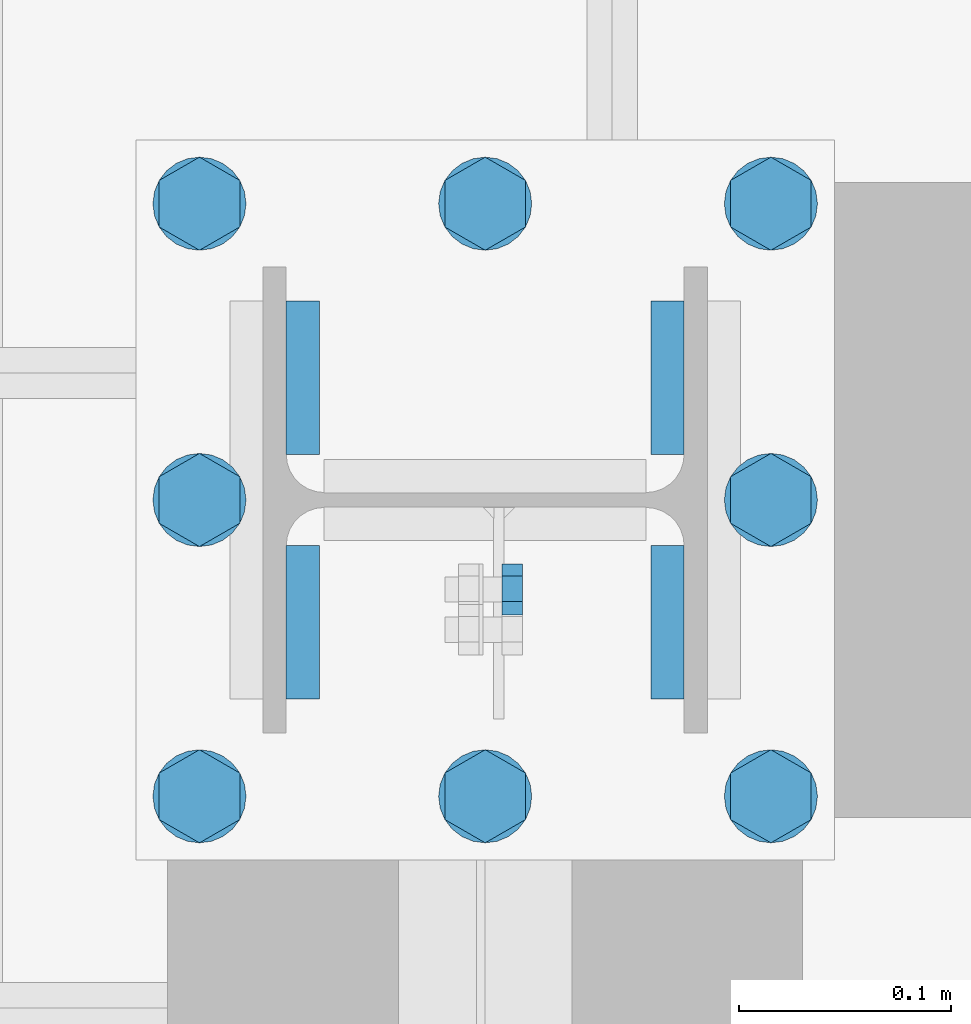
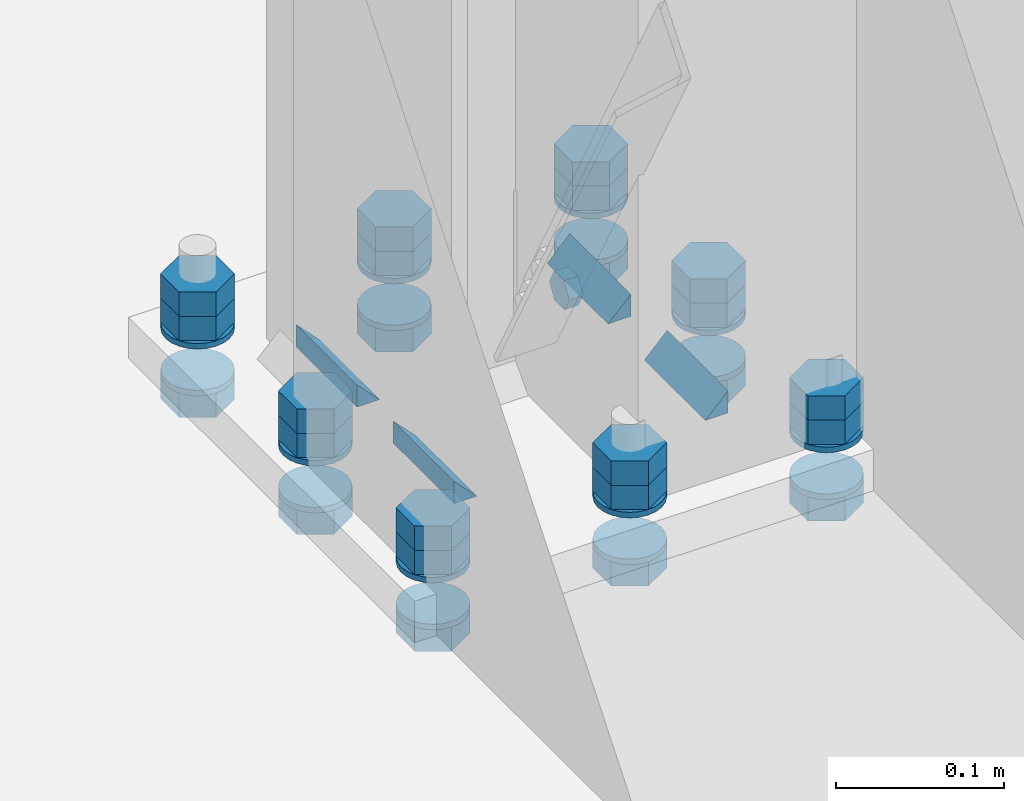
# One storey, part 22 of 29: 41 mechanical fasteners, 8 fasteners.
"""IFC4 building model written with IfcOpenShell, lengths in metres."""

from ifc_helpers import new_model, si_unit, frame, origin_with_axes, place, context, project, spatial, polyline, outline, extrude, type_object, element, save


model = new_model("IFC4")

# Units and contexts
model_context = context("Model", 3, precision=1e-05, world=origin_with_axes())
ifc_project = project(units=[si_unit("LENGTHUNIT", "METRE"), si_unit("AREAUNIT", "SQUARE_METRE"), si_unit("VOLUMEUNIT", "CUBIC_METRE"), si_unit("MASSUNIT", "GRAM", prefix="KILO"), si_unit("TIMEUNIT", "SECOND"), si_unit("PLANEANGLEUNIT", "RADIAN"), si_unit("SOLIDANGLEUNIT", "STERADIAN"), si_unit("THERMODYNAMICTEMPERATUREUNIT", "DEGREE_CELSIUS")], contexts=[model_context])

# Site, building, storey
placement_1 = place(None, origin_with_axes())
site = spatial("IfcSite", under=ifc_project, at=placement_1, Name="Italia", CompositionType="ELEMENT")
building = spatial("IfcBuilding", under=site, at=placement_1, Name="Capannone", CompositionType="ELEMENT")
storey = spatial("IfcBuildingStorey", under=building, at=placement_1, Name="Storey 0", CompositionType="ELEMENT", Elevation=0.0)

# Fasteners
fastener_type_1 = type_object("IfcFastenerType", Name="Collegamenti 0001_0101 0002_0102 0003_0103 0004_0104 0005_0105 0006_0106 0007_0107 0008_0108 0009_0109 0010_0110 0011_0111 0012_0112", PredefinedType="WELD")
placement_2 = place(placement_1, origin_with_axes())
fastener_1_placement = place(placement_2, origin_with_axes())
element("IfcFastener", 1, at=fastener_1_placement, inside=storey, type_object=fastener_type_1, Name="Collegamenti 0001_0101 0002_0102 0003_0103 0004_0104 0005_0105 0006_0106 0007_0107 0008_0108 0009_0109 0010_0110 0011_0111 0012_0112", context=model_context, shape_type="SweptSolid", body=[
    extrude(outline(polyline([(0.0, 0.0), (0.0156882, 0.0161734), (0.0156882, 0.0), (0.0, 0.0)])), frame((-0.0783618, 15.0215, 0.02995), z_axis=(0.0, 1.0, 0.0), x_axis=(-1.0, 0.0, 0.0)), (0.0, 0.0, 1.0), 0.0726004),
])
fastener_type_2 = type_object("IfcFastenerType", Name="Collegamenti 0001_0101 0002_0102 0003_0103 0004_0104 0005_0105 0006_0106 0007_0107 0008_0108 0009_0109 0010_0110 0011_0111 0012_0112", PredefinedType="WELD")
fastener_2_placement = place(placement_2, origin_with_axes())
element("IfcFastener", 2, at=fastener_2_placement, inside=storey, type_object=fastener_type_2, Name="Collegamenti 0001_0101 0002_0102 0003_0103 0004_0104 0005_0105 0006_0106 0007_0107 0008_0108 0009_0109 0010_0110 0011_0111 0012_0112", context=model_context, shape_type="SweptSolid", body=[
    extrude(outline(polyline([(0.0, 0.0), (0.0156882, 0.0161734), (0.0156882, 0.0), (0.0, 0.0)])), frame((0.0783618, 15.0941, 0.02995), z_axis=(0.0, -1.0, 0.0), x_axis=(1.0, 0.0, 0.0)), (0.0, 0.0, 1.0), 0.0726004),
])
fastener_type_3 = type_object("IfcFastenerType", Name="Collegamenti 0001_0101 0002_0102 0003_0103 0004_0104 0005_0105 0006_0106 0007_0107 0008_0108 0009_0109 0010_0110 0011_0111 0012_0112", PredefinedType="WELD")
fastener_3_placement = place(placement_2, origin_with_axes())
element("IfcFastener", 3, at=fastener_3_placement, inside=storey, type_object=fastener_type_3, Name="Collegamenti 0001_0101 0002_0102 0003_0103 0004_0104 0005_0105 0006_0106 0007_0107 0008_0108 0009_0109 0010_0110 0011_0111 0012_0112", context=model_context, shape_type="SweptSolid", body=[
    extrude(outline(polyline([(0.0, 0.0), (0.0156882, 0.0161734), (0.0156882, 0.0), (0.0, 0.0)])), frame((0.0783618, 14.9785, 0.02995), z_axis=(0.0, -1.0, 0.0), x_axis=(1.0, 0.0, 0.0)), (0.0, 0.0, 1.0), 0.0726004),
])
fastener_type_4 = type_object("IfcFastenerType", Name="Collegamenti 0001_0101 0002_0102 0003_0103 0004_0104 0005_0105 0006_0106 0007_0107 0008_0108 0009_0109 0010_0110 0011_0111 0012_0112", PredefinedType="WELD")
fastener_4_placement = place(placement_2, origin_with_axes())
element("IfcFastener", 4, at=fastener_4_placement, inside=storey, type_object=fastener_type_4, Name="Collegamenti 0001_0101 0002_0102 0003_0103 0004_0104 0005_0105 0006_0106 0007_0107 0008_0108 0009_0109 0010_0110 0011_0111 0012_0112", context=model_context, shape_type="SweptSolid", body=[
    extrude(outline(polyline([(0.0, 0.0), (0.0156882, 0.0161734), (0.0156882, 0.0), (0.0, 0.0)])), frame((-0.0783618, 14.9059, 0.02995), z_axis=(0.0, 1.0, 0.0), x_axis=(-1.0, 0.0, 0.0)), (0.0, 0.0, 1.0), 0.0726004),
])
fastener_type_5 = type_object("IfcFastenerType", Name="Collegamenti 0001_0101 0002_0102 0003_0103 0004_0104 0005_0105 0006_0106 0007_0107 0008_0108 0009_0109 0010_0110 0011_0111 0012_0112", PredefinedType="WELD")
fastener_5_placement = place(placement_2, origin_with_axes())
element("IfcFastener", 5, at=fastener_5_placement, inside=storey, type_object=fastener_type_5, Name="Collegamenti 0001_0101 0002_0102 0003_0103 0004_0104 0005_0105 0006_0106 0007_0107 0008_0108 0009_0109 0010_0110 0011_0111 0012_0112", context=model_context, shape_type="SweptSolid", body=[
    extrude(outline(polyline([(0.0, 0.0), (0.0156882, 0.0161734), (0.0156882, 0.0), (0.0, 0.0)])), frame((-0.0783618, 15.0215, 0.02995), z_axis=(0.0, 1.0, 0.0), x_axis=(-1.0, 0.0, 0.0)), (0.0, 0.0, 1.0), 0.0726004),
])
fastener_type_6 = type_object("IfcFastenerType", Name="Collegamenti 0001_0101 0002_0102 0003_0103 0004_0104 0005_0105 0006_0106 0007_0107 0008_0108 0009_0109 0010_0110 0011_0111 0012_0112", PredefinedType="WELD")
fastener_6_placement = place(placement_2, origin_with_axes())
element("IfcFastener", 6, at=fastener_6_placement, inside=storey, type_object=fastener_type_6, Name="Collegamenti 0001_0101 0002_0102 0003_0103 0004_0104 0005_0105 0006_0106 0007_0107 0008_0108 0009_0109 0010_0110 0011_0111 0012_0112", context=model_context, shape_type="SweptSolid", body=[
    extrude(outline(polyline([(0.0, 0.0), (0.0156882, 0.0161734), (0.0156882, 0.0), (0.0, 0.0)])), frame((0.0783618, 15.0941, 0.02995), z_axis=(0.0, -1.0, 0.0), x_axis=(1.0, 0.0, 0.0)), (0.0, 0.0, 1.0), 0.0726004),
])
fastener_type_7 = type_object("IfcFastenerType", Name="Collegamenti 0001_0101 0002_0102 0003_0103 0004_0104 0005_0105 0006_0106 0007_0107 0008_0108 0009_0109 0010_0110 0011_0111 0012_0112", PredefinedType="WELD")
fastener_7_placement = place(placement_2, origin_with_axes())
element("IfcFastener", 7, at=fastener_7_placement, inside=storey, type_object=fastener_type_7, Name="Collegamenti 0001_0101 0002_0102 0003_0103 0004_0104 0005_0105 0006_0106 0007_0107 0008_0108 0009_0109 0010_0110 0011_0111 0012_0112", context=model_context, shape_type="SweptSolid", body=[
    extrude(outline(polyline([(0.0, 0.0), (0.0156882, 0.0161734), (0.0156882, 0.0), (0.0, 0.0)])), frame((0.0783618, 14.9785, 0.02995), z_axis=(0.0, -1.0, 0.0), x_axis=(1.0, 0.0, 0.0)), (0.0, 0.0, 1.0), 0.0726004),
])
fastener_type_8 = type_object("IfcFastenerType", Name="Collegamenti 0001_0101 0002_0102 0003_0103 0004_0104 0005_0105 0006_0106 0007_0107 0008_0108 0009_0109 0010_0110 0011_0111 0012_0112", PredefinedType="WELD")
fastener_8_placement = place(placement_2, origin_with_axes())
element("IfcFastener", 8, at=fastener_8_placement, inside=storey, type_object=fastener_type_8, Name="Collegamenti 0001_0101 0002_0102 0003_0103 0004_0104 0005_0105 0006_0106 0007_0107 0008_0108 0009_0109 0010_0110 0011_0111 0012_0112", context=model_context, shape_type="SweptSolid", body=[
    extrude(outline(polyline([(0.0, 0.0), (0.0156882, 0.0161734), (0.0156882, 0.0), (0.0, 0.0)])), frame((-0.0783618, 14.9059, 0.02995), z_axis=(0.0, 1.0, 0.0), x_axis=(-1.0, 0.0, 0.0)), (0.0, 0.0, 1.0), 0.0726004),
])

# Mechanical fasteners
mechanical_fastener_type_1 = type_object("IfcMechanicalFastenerType", Name="Collegamenti 0001_0101 0002_0102 0003_0103 0004_0104 0005_0105 0006_0106 0007_0107 0008_0108 0009_0109 0010_0110 0011_0111 0012_0112", PredefinedType="BOLT")
mechanical_fastener_1_placement = place(placement_2, origin_with_axes())
element("IfcMechanicalFastener", 9, at=mechanical_fastener_1_placement, inside=storey, type_object=mechanical_fastener_type_1, Name="Collegamenti 0001_0101 0002_0102 0003_0103 0004_0104 0005_0105 0006_0106 0007_0107 0008_0108 0009_0109 0010_0110 0011_0111 0012_0112", NominalDiameter=0.0219998, context=model_context, shape_type="SweptSolid", body=[
    extrude(outline(polyline([(0.0, 0.0), (-0.0220003, 0.0), (-0.033, 0.0190526), (-0.0220003, 0.0381051), (0.0, 0.0381051), (0.0109997, 0.0190526), (0.0, 0.0)])), frame((0.154053, 14.871, 0.034), z_axis=(0.0, 0.0, 1.0), x_axis=(0.0, 1.0, 0.0)), (0.0, 0.0, 1.0), 0.0176),
])
mechanical_fastener_type_2 = type_object("IfcMechanicalFastenerType", Name="Collegamenti 0001_0101 0002_0102 0003_0103 0004_0104 0005_0105 0006_0106 0007_0107 0008_0108 0009_0109 0010_0110 0011_0111 0012_0112", PredefinedType="BOLT")
mechanical_fastener_2_placement = place(placement_2, origin_with_axes())
element("IfcMechanicalFastener", 10, at=mechanical_fastener_2_placement, inside=storey, type_object=mechanical_fastener_type_2, Name="Collegamenti 0001_0101 0002_0102 0003_0103 0004_0104 0005_0105 0006_0106 0007_0107 0008_0108 0009_0109 0010_0110 0011_0111 0012_0112", NominalDiameter=0.0219998, context=model_context, shape_type="SweptSolid", body=[
    extrude(outline(polyline([(0.0, 0.0), (-0.0220003, 0.0), (-0.033, 0.0190526), (-0.0220003, 0.0381051), (0.0, 0.0381051), (0.0109997, 0.0190526), (0.0, 0.0)])), frame((0.154053, 14.871, 0.0516), z_axis=(0.0, 0.0, 1.0), x_axis=(0.0, 1.0, 0.0)), (0.0, 0.0, 1.0), 0.0176),
])
mechanical_fastener_type_3 = type_object("IfcMechanicalFastenerType", Name="Collegamenti 0001_0101 0002_0102 0003_0103 0004_0104 0005_0105 0006_0106 0007_0107 0008_0108 0009_0109 0010_0110 0011_0111 0012_0112", PredefinedType="BOLT")
mechanical_fastener_3_placement = place(placement_2, origin_with_axes())
element("IfcMechanicalFastener", 11, at=mechanical_fastener_3_placement, inside=storey, type_object=mechanical_fastener_type_3, Name="Collegamenti 0001_0101 0002_0102 0003_0103 0004_0104 0005_0105 0006_0106 0007_0107 0008_0108 0009_0109 0010_0110 0011_0111 0012_0112", NominalDiameter=0.0219998, context=model_context, shape_type="SweptSolid", body=[
    extrude(outline(polyline([(0.0, 0.0), (-0.0220003, 0.0), (-0.033, 0.0190526), (-0.0220003, 0.0381051), (0.0, 0.0381051), (0.0109997, 0.0190526), (0.0, 0.0)])), frame((0.154053, 14.871, -0.0216), z_axis=(0.0, 0.0, 1.0), x_axis=(0.0, 1.0, 0.0)), (0.0, 0.0, 1.0), 0.0176),
])
mechanical_fastener_type_4 = type_object("IfcMechanicalFastenerType", Name="Collegamenti 0001_0101 0002_0102 0003_0103 0004_0104 0005_0105 0006_0106 0007_0107 0008_0108 0009_0109 0010_0110 0011_0111 0012_0112", PredefinedType="BOLT")
mechanical_fastener_4_placement = place(placement_2, origin_with_axes())
element("IfcMechanicalFastener", 12, at=mechanical_fastener_4_placement, inside=storey, type_object=mechanical_fastener_type_4, Name="Collegamenti 0001_0101 0002_0102 0003_0103 0004_0104 0005_0105 0006_0106 0007_0107 0008_0108 0009_0109 0010_0110 0011_0111 0012_0112", NominalDiameter=0.044, context=model_context, shape_type="SweptSolid", body=[
    extrude(outline(polyline([(0.0, 0.0), (-0.000749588, -0.00569402), (-0.00294781, -0.011), (-0.00644398, -0.0155564), (-0.0110006, -0.0190526), (-0.0163059, -0.0212504), (-0.0220003, -0.022), (-0.0276947, -0.0212504), (-0.033, -0.0190526), (-0.0375566, -0.0155564), (-0.0410528, -0.011), (-0.043251, -0.00569402), (-0.0440006, 0.0), (-0.043251, 0.00569402), (-0.0410528, 0.011), (-0.0375566, 0.0155564), (-0.033, 0.0190526), (-0.0276947, 0.0212504), (-0.0220003, 0.022), (-0.0163059, 0.0212504), (-0.0110006, 0.0190526), (-0.00644398, 0.0155563), (-0.00294781, 0.011), (-0.000749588, 0.00569402), (0.0, 0.0)])), frame((0.135, 14.882, 0.03), z_axis=(0.0, 0.0, 1.0), x_axis=(0.0, 1.0, 0.0)), (0.0, 0.0, 1.0), 0.004),
])
mechanical_fastener_type_5 = type_object("IfcMechanicalFastenerType", Name="Collegamenti 0001_0101 0002_0102 0003_0103 0004_0104 0005_0105 0006_0106 0007_0107 0008_0108 0009_0109 0010_0110 0011_0111 0012_0112", PredefinedType="BOLT")
mechanical_fastener_5_placement = place(placement_2, origin_with_axes())
element("IfcMechanicalFastener", 13, at=mechanical_fastener_5_placement, inside=storey, type_object=mechanical_fastener_type_5, Name="Collegamenti 0001_0101 0002_0102 0003_0103 0004_0104 0005_0105 0006_0106 0007_0107 0008_0108 0009_0109 0010_0110 0011_0111 0012_0112", NominalDiameter=0.044, context=model_context, shape_type="SweptSolid", body=[
    extrude(outline(polyline([(0.0, 0.0), (-0.000749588, -0.00569402), (-0.00294781, -0.011), (-0.00644398, -0.0155564), (-0.0110006, -0.0190526), (-0.0163059, -0.0212504), (-0.0220003, -0.022), (-0.0276947, -0.0212504), (-0.033, -0.0190526), (-0.0375566, -0.0155564), (-0.0410528, -0.011), (-0.043251, -0.00569402), (-0.0440006, 0.0), (-0.043251, 0.00569402), (-0.0410528, 0.011), (-0.0375566, 0.0155564), (-0.033, 0.0190526), (-0.0276947, 0.0212504), (-0.0220003, 0.022), (-0.0163059, 0.0212504), (-0.0110006, 0.0190526), (-0.00644398, 0.0155563), (-0.00294781, 0.011), (-0.000749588, 0.00569402), (0.0, 0.0)])), frame((0.135, 14.882, -0.004), z_axis=(0.0, 0.0, 1.0), x_axis=(0.0, 1.0, 0.0)), (0.0, 0.0, 1.0), 0.004),
])
mechanical_fastener_type_6 = type_object("IfcMechanicalFastenerType", Name="Collegamenti 0001_0101 0002_0102 0003_0103 0004_0104 0005_0105 0006_0106 0007_0107 0008_0108 0009_0109 0010_0110 0011_0111 0012_0112", PredefinedType="BOLT")
mechanical_fastener_6_placement = place(placement_2, origin_with_axes())
element("IfcMechanicalFastener", 14, at=mechanical_fastener_6_placement, inside=storey, type_object=mechanical_fastener_type_6, Name="Collegamenti 0001_0101 0002_0102 0003_0103 0004_0104 0005_0105 0006_0106 0007_0107 0008_0108 0009_0109 0010_0110 0011_0111 0012_0112", NominalDiameter=0.0219994, context=model_context, shape_type="SweptSolid", body=[
    extrude(outline(polyline([(0.0, 0.0), (-0.0219994, 0.0), (-0.033, 0.0190526), (-0.0219994, 0.0381051), (0.0, 0.0381051), (0.0110006, 0.0190526), (0.0, 0.0)])), frame((0.154053, 15.011, 0.034), z_axis=(0.0, 0.0, 1.0), x_axis=(0.0, 1.0, 0.0)), (0.0, 0.0, 1.0), 0.0176),
])
mechanical_fastener_type_7 = type_object("IfcMechanicalFastenerType", Name="Collegamenti 0001_0101 0002_0102 0003_0103 0004_0104 0005_0105 0006_0106 0007_0107 0008_0108 0009_0109 0010_0110 0011_0111 0012_0112", PredefinedType="BOLT")
mechanical_fastener_7_placement = place(placement_2, origin_with_axes())
element("IfcMechanicalFastener", 15, at=mechanical_fastener_7_placement, inside=storey, type_object=mechanical_fastener_type_7, Name="Collegamenti 0001_0101 0002_0102 0003_0103 0004_0104 0005_0105 0006_0106 0007_0107 0008_0108 0009_0109 0010_0110 0011_0111 0012_0112", NominalDiameter=0.0219994, context=model_context, shape_type="SweptSolid", body=[
    extrude(outline(polyline([(0.0, 0.0), (-0.0219994, 0.0), (-0.033, 0.0190526), (-0.0219994, 0.0381051), (0.0, 0.0381051), (0.0110006, 0.0190526), (0.0, 0.0)])), frame((0.154053, 15.011, 0.0516), z_axis=(0.0, 0.0, 1.0), x_axis=(0.0, 1.0, 0.0)), (0.0, 0.0, 1.0), 0.0176),
])
mechanical_fastener_type_8 = type_object("IfcMechanicalFastenerType", Name="Collegamenti 0001_0101 0002_0102 0003_0103 0004_0104 0005_0105 0006_0106 0007_0107 0008_0108 0009_0109 0010_0110 0011_0111 0012_0112", PredefinedType="BOLT")
mechanical_fastener_8_placement = place(placement_2, origin_with_axes())
element("IfcMechanicalFastener", 16, at=mechanical_fastener_8_placement, inside=storey, type_object=mechanical_fastener_type_8, Name="Collegamenti 0001_0101 0002_0102 0003_0103 0004_0104 0005_0105 0006_0106 0007_0107 0008_0108 0009_0109 0010_0110 0011_0111 0012_0112", NominalDiameter=0.0219994, context=model_context, shape_type="SweptSolid", body=[
    extrude(outline(polyline([(0.0, 0.0), (-0.0219994, 0.0), (-0.033, 0.0190526), (-0.0219994, 0.0381051), (0.0, 0.0381051), (0.0110006, 0.0190526), (0.0, 0.0)])), frame((0.154053, 15.011, -0.0216), z_axis=(0.0, 0.0, 1.0), x_axis=(0.0, 1.0, 0.0)), (0.0, 0.0, 1.0), 0.0176),
])
mechanical_fastener_type_9 = type_object("IfcMechanicalFastenerType", Name="Collegamenti 0001_0101 0002_0102 0003_0103 0004_0104 0005_0105 0006_0106 0007_0107 0008_0108 0009_0109 0010_0110 0011_0111 0012_0112", PredefinedType="BOLT")
mechanical_fastener_9_placement = place(placement_2, origin_with_axes())
element("IfcMechanicalFastener", 17, at=mechanical_fastener_9_placement, inside=storey, type_object=mechanical_fastener_type_9, Name="Collegamenti 0001_0101 0002_0102 0003_0103 0004_0104 0005_0105 0006_0106 0007_0107 0008_0108 0009_0109 0010_0110 0011_0111 0012_0112", NominalDiameter=0.044, context=model_context, shape_type="SweptSolid", body=[
    extrude(outline(polyline([(0.0, 0.0), (-0.000749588, -0.00569402), (-0.00294781, -0.011), (-0.00644398, -0.0155564), (-0.0110006, -0.0190526), (-0.0163059, -0.0212504), (-0.0220003, -0.022), (-0.0276947, -0.0212504), (-0.033, -0.0190526), (-0.0375566, -0.0155564), (-0.0410528, -0.011), (-0.043251, -0.00569402), (-0.0440006, 0.0), (-0.043251, 0.00569402), (-0.0410528, 0.011), (-0.0375566, 0.0155564), (-0.033, 0.0190526), (-0.0276947, 0.0212504), (-0.0220003, 0.022), (-0.0163059, 0.0212504), (-0.0110006, 0.0190526), (-0.00644398, 0.0155563), (-0.00294781, 0.011), (-0.000749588, 0.00569402), (0.0, 0.0)])), frame((0.135, 15.022, 0.03), z_axis=(0.0, 0.0, 1.0), x_axis=(0.0, 1.0, 0.0)), (0.0, 0.0, 1.0), 0.004),
])
mechanical_fastener_type_10 = type_object("IfcMechanicalFastenerType", Name="Collegamenti 0001_0101 0002_0102 0003_0103 0004_0104 0005_0105 0006_0106 0007_0107 0008_0108 0009_0109 0010_0110 0011_0111 0012_0112", PredefinedType="BOLT")
mechanical_fastener_10_placement = place(placement_2, origin_with_axes())
element("IfcMechanicalFastener", 18, at=mechanical_fastener_10_placement, inside=storey, type_object=mechanical_fastener_type_10, Name="Collegamenti 0001_0101 0002_0102 0003_0103 0004_0104 0005_0105 0006_0106 0007_0107 0008_0108 0009_0109 0010_0110 0011_0111 0012_0112", NominalDiameter=0.044, context=model_context, shape_type="SweptSolid", body=[
    extrude(outline(polyline([(0.0, 0.0), (-0.000749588, -0.00569402), (-0.00294781, -0.011), (-0.00644398, -0.0155564), (-0.0110006, -0.0190526), (-0.0163059, -0.0212504), (-0.0220003, -0.022), (-0.0276947, -0.0212504), (-0.033, -0.0190526), (-0.0375566, -0.0155564), (-0.0410528, -0.011), (-0.043251, -0.00569402), (-0.0440006, 0.0), (-0.043251, 0.00569402), (-0.0410528, 0.011), (-0.0375566, 0.0155564), (-0.033, 0.0190526), (-0.0276947, 0.0212504), (-0.0220003, 0.022), (-0.0163059, 0.0212504), (-0.0110006, 0.0190526), (-0.00644398, 0.0155563), (-0.00294781, 0.011), (-0.000749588, 0.00569402), (0.0, 0.0)])), frame((0.135, 15.022, -0.004), z_axis=(0.0, 0.0, 1.0), x_axis=(0.0, 1.0, 0.0)), (0.0, 0.0, 1.0), 0.004),
])
mechanical_fastener_type_11 = type_object("IfcMechanicalFastenerType", Name="Collegamenti 0001_0101 0002_0102 0003_0103 0004_0104 0005_0105 0006_0106 0007_0107 0008_0108 0009_0109 0010_0110 0011_0111 0012_0112", PredefinedType="BOLT")
mechanical_fastener_11_placement = place(placement_2, origin_with_axes())
element("IfcMechanicalFastener", 19, at=mechanical_fastener_11_placement, inside=storey, type_object=mechanical_fastener_type_11, Name="Collegamenti 0001_0101 0002_0102 0003_0103 0004_0104 0005_0105 0006_0106 0007_0107 0008_0108 0009_0109 0010_0110 0011_0111 0012_0112", NominalDiameter=0.0219998, context=model_context, shape_type="SweptSolid", body=[
    extrude(outline(polyline([(0.0, 0.0), (-0.0220003, 0.0), (-0.033, 0.0190526), (-0.0220003, 0.0381051), (0.0, 0.0381051), (0.0109997, 0.0190526), (0.0, 0.0)])), frame((0.154053, 15.151, 0.034), z_axis=(0.0, 0.0, 1.0), x_axis=(0.0, 1.0, 0.0)), (0.0, 0.0, 1.0), 0.0176),
])
mechanical_fastener_type_12 = type_object("IfcMechanicalFastenerType", Name="Collegamenti 0001_0101 0002_0102 0003_0103 0004_0104 0005_0105 0006_0106 0007_0107 0008_0108 0009_0109 0010_0110 0011_0111 0012_0112", PredefinedType="BOLT")
mechanical_fastener_12_placement = place(placement_2, origin_with_axes())
element("IfcMechanicalFastener", 20, at=mechanical_fastener_12_placement, inside=storey, type_object=mechanical_fastener_type_12, Name="Collegamenti 0001_0101 0002_0102 0003_0103 0004_0104 0005_0105 0006_0106 0007_0107 0008_0108 0009_0109 0010_0110 0011_0111 0012_0112", NominalDiameter=0.0219998, context=model_context, shape_type="SweptSolid", body=[
    extrude(outline(polyline([(0.0, 0.0), (-0.0220003, 0.0), (-0.033, 0.0190526), (-0.0220003, 0.0381051), (0.0, 0.0381051), (0.0109997, 0.0190526), (0.0, 0.0)])), frame((0.154053, 15.151, 0.0516), z_axis=(0.0, 0.0, 1.0), x_axis=(0.0, 1.0, 0.0)), (0.0, 0.0, 1.0), 0.0176),
])
mechanical_fastener_type_13 = type_object("IfcMechanicalFastenerType", Name="Collegamenti 0001_0101 0002_0102 0003_0103 0004_0104 0005_0105 0006_0106 0007_0107 0008_0108 0009_0109 0010_0110 0011_0111 0012_0112", PredefinedType="BOLT")
mechanical_fastener_13_placement = place(placement_2, origin_with_axes())
element("IfcMechanicalFastener", 21, at=mechanical_fastener_13_placement, inside=storey, type_object=mechanical_fastener_type_13, Name="Collegamenti 0001_0101 0002_0102 0003_0103 0004_0104 0005_0105 0006_0106 0007_0107 0008_0108 0009_0109 0010_0110 0011_0111 0012_0112", NominalDiameter=0.0219998, context=model_context, shape_type="SweptSolid", body=[
    extrude(outline(polyline([(0.0, 0.0), (-0.0220003, 0.0), (-0.033, 0.0190526), (-0.0220003, 0.0381051), (0.0, 0.0381051), (0.0109997, 0.0190526), (0.0, 0.0)])), frame((0.154053, 15.151, -0.0216), z_axis=(0.0, 0.0, 1.0), x_axis=(0.0, 1.0, 0.0)), (0.0, 0.0, 1.0), 0.0176),
])
mechanical_fastener_type_14 = type_object("IfcMechanicalFastenerType", Name="Collegamenti 0001_0101 0002_0102 0003_0103 0004_0104 0005_0105 0006_0106 0007_0107 0008_0108 0009_0109 0010_0110 0011_0111 0012_0112", PredefinedType="BOLT")
mechanical_fastener_14_placement = place(placement_2, origin_with_axes())
element("IfcMechanicalFastener", 22, at=mechanical_fastener_14_placement, inside=storey, type_object=mechanical_fastener_type_14, Name="Collegamenti 0001_0101 0002_0102 0003_0103 0004_0104 0005_0105 0006_0106 0007_0107 0008_0108 0009_0109 0010_0110 0011_0111 0012_0112", NominalDiameter=0.044, context=model_context, shape_type="SweptSolid", body=[
    extrude(outline(polyline([(0.0, 0.0), (-0.000749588, -0.00569402), (-0.00294781, -0.011), (-0.00644398, -0.0155564), (-0.0110006, -0.0190526), (-0.0163059, -0.0212504), (-0.0220003, -0.022), (-0.0276947, -0.0212504), (-0.033, -0.0190526), (-0.0375566, -0.0155564), (-0.0410528, -0.011), (-0.043251, -0.00569402), (-0.0440006, 0.0), (-0.043251, 0.00569402), (-0.0410528, 0.011), (-0.0375566, 0.0155564), (-0.033, 0.0190526), (-0.0276947, 0.0212504), (-0.0220003, 0.022), (-0.0163059, 0.0212504), (-0.0110006, 0.0190526), (-0.00644398, 0.0155563), (-0.00294781, 0.011), (-0.000749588, 0.00569402), (0.0, 0.0)])), frame((0.135, 15.162, 0.03), z_axis=(0.0, 0.0, 1.0), x_axis=(0.0, 1.0, 0.0)), (0.0, 0.0, 1.0), 0.004),
])
mechanical_fastener_type_15 = type_object("IfcMechanicalFastenerType", Name="Collegamenti 0001_0101 0002_0102 0003_0103 0004_0104 0005_0105 0006_0106 0007_0107 0008_0108 0009_0109 0010_0110 0011_0111 0012_0112", PredefinedType="BOLT")
mechanical_fastener_15_placement = place(placement_2, origin_with_axes())
element("IfcMechanicalFastener", 23, at=mechanical_fastener_15_placement, inside=storey, type_object=mechanical_fastener_type_15, Name="Collegamenti 0001_0101 0002_0102 0003_0103 0004_0104 0005_0105 0006_0106 0007_0107 0008_0108 0009_0109 0010_0110 0011_0111 0012_0112", NominalDiameter=0.044, context=model_context, shape_type="SweptSolid", body=[
    extrude(outline(polyline([(0.0, 0.0), (-0.000749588, -0.00569402), (-0.00294781, -0.011), (-0.00644398, -0.0155564), (-0.0110006, -0.0190526), (-0.0163059, -0.0212504), (-0.0220003, -0.022), (-0.0276947, -0.0212504), (-0.033, -0.0190526), (-0.0375566, -0.0155564), (-0.0410528, -0.011), (-0.043251, -0.00569402), (-0.0440006, 0.0), (-0.043251, 0.00569402), (-0.0410528, 0.011), (-0.0375566, 0.0155564), (-0.033, 0.0190526), (-0.0276947, 0.0212504), (-0.0220003, 0.022), (-0.0163059, 0.0212504), (-0.0110006, 0.0190526), (-0.00644398, 0.0155563), (-0.00294781, 0.011), (-0.000749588, 0.00569402), (0.0, 0.0)])), frame((0.135, 15.162, -0.004), z_axis=(0.0, 0.0, 1.0), x_axis=(0.0, 1.0, 0.0)), (0.0, 0.0, 1.0), 0.004),
])
mechanical_fastener_type_16 = type_object("IfcMechanicalFastenerType", Name="Collegamenti 0001_0101 0002_0102 0003_0103 0004_0104 0005_0105 0006_0106 0007_0107 0008_0108 0009_0109 0010_0110 0011_0111 0012_0112", PredefinedType="BOLT")
mechanical_fastener_16_placement = place(placement_2, origin_with_axes())
element("IfcMechanicalFastener", 24, at=mechanical_fastener_16_placement, inside=storey, type_object=mechanical_fastener_type_16, Name="Collegamenti 0001_0101 0002_0102 0003_0103 0004_0104 0005_0105 0006_0106 0007_0107 0008_0108 0009_0109 0010_0110 0011_0111 0012_0112", NominalDiameter=0.0219998, context=model_context, shape_type="SweptSolid", body=[
    extrude(outline(polyline([(0.0, 0.0), (-0.0220003, 0.0), (-0.033, 0.0190526), (-0.0220003, 0.0381051), (0.0, 0.0381051), (0.0109997, 0.0190526), (0.0, 0.0)])), frame((0.0190526, 14.871, 0.034), z_axis=(0.0, 0.0, 1.0), x_axis=(0.0, 1.0, 0.0)), (0.0, 0.0, 1.0), 0.0176),
])
mechanical_fastener_type_17 = type_object("IfcMechanicalFastenerType", Name="Collegamenti 0001_0101 0002_0102 0003_0103 0004_0104 0005_0105 0006_0106 0007_0107 0008_0108 0009_0109 0010_0110 0011_0111 0012_0112", PredefinedType="BOLT")
mechanical_fastener_17_placement = place(placement_2, origin_with_axes())
element("IfcMechanicalFastener", 25, at=mechanical_fastener_17_placement, inside=storey, type_object=mechanical_fastener_type_17, Name="Collegamenti 0001_0101 0002_0102 0003_0103 0004_0104 0005_0105 0006_0106 0007_0107 0008_0108 0009_0109 0010_0110 0011_0111 0012_0112", NominalDiameter=0.0219998, context=model_context, shape_type="SweptSolid", body=[
    extrude(outline(polyline([(0.0, 0.0), (-0.0220003, 0.0), (-0.033, 0.0190526), (-0.0220003, 0.0381051), (0.0, 0.0381051), (0.0109997, 0.0190526), (0.0, 0.0)])), frame((0.0190526, 14.871, 0.0516), z_axis=(0.0, 0.0, 1.0), x_axis=(0.0, 1.0, 0.0)), (0.0, 0.0, 1.0), 0.0176),
])
mechanical_fastener_type_18 = type_object("IfcMechanicalFastenerType", Name="Collegamenti 0001_0101 0002_0102 0003_0103 0004_0104 0005_0105 0006_0106 0007_0107 0008_0108 0009_0109 0010_0110 0011_0111 0012_0112", PredefinedType="BOLT")
mechanical_fastener_18_placement = place(placement_2, origin_with_axes())
element("IfcMechanicalFastener", 26, at=mechanical_fastener_18_placement, inside=storey, type_object=mechanical_fastener_type_18, Name="Collegamenti 0001_0101 0002_0102 0003_0103 0004_0104 0005_0105 0006_0106 0007_0107 0008_0108 0009_0109 0010_0110 0011_0111 0012_0112", NominalDiameter=0.0219998, context=model_context, shape_type="SweptSolid", body=[
    extrude(outline(polyline([(0.0, 0.0), (-0.0220003, 0.0), (-0.033, 0.0190526), (-0.0220003, 0.0381051), (0.0, 0.0381051), (0.0109997, 0.0190526), (0.0, 0.0)])), frame((0.0190526, 14.871, -0.0216), z_axis=(0.0, 0.0, 1.0), x_axis=(0.0, 1.0, 0.0)), (0.0, 0.0, 1.0), 0.0176),
])
mechanical_fastener_type_19 = type_object("IfcMechanicalFastenerType", Name="Collegamenti 0001_0101 0002_0102 0003_0103 0004_0104 0005_0105 0006_0106 0007_0107 0008_0108 0009_0109 0010_0110 0011_0111 0012_0112", PredefinedType="BOLT")
mechanical_fastener_19_placement = place(placement_2, origin_with_axes())
element("IfcMechanicalFastener", 27, at=mechanical_fastener_19_placement, inside=storey, type_object=mechanical_fastener_type_19, Name="Collegamenti 0001_0101 0002_0102 0003_0103 0004_0104 0005_0105 0006_0106 0007_0107 0008_0108 0009_0109 0010_0110 0011_0111 0012_0112", NominalDiameter=0.044, context=model_context, shape_type="SweptSolid", body=[
    extrude(outline(polyline([(0.0, 0.0), (-0.000749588, -0.00569402), (-0.00294781, -0.011), (-0.00644398, -0.0155563), (-0.0110006, -0.0190526), (-0.0163059, -0.0212504), (-0.0220003, -0.022), (-0.0276947, -0.0212504), (-0.033, -0.0190526), (-0.0375566, -0.0155563), (-0.0410528, -0.011), (-0.043251, -0.00569402), (-0.0440006, 0.0), (-0.043251, 0.00569402), (-0.0410528, 0.011), (-0.0375566, 0.0155564), (-0.033, 0.0190526), (-0.0276947, 0.0212504), (-0.0220003, 0.022), (-0.0163059, 0.0212504), (-0.0110006, 0.0190526), (-0.00644398, 0.0155563), (-0.00294781, 0.011), (-0.000749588, 0.00569401), (0.0, 0.0)])), frame((0.0, 14.882, 0.03), z_axis=(0.0, 0.0, 1.0), x_axis=(0.0, 1.0, 0.0)), (0.0, 0.0, 1.0), 0.004),
])
mechanical_fastener_type_20 = type_object("IfcMechanicalFastenerType", Name="Collegamenti 0001_0101 0002_0102 0003_0103 0004_0104 0005_0105 0006_0106 0007_0107 0008_0108 0009_0109 0010_0110 0011_0111 0012_0112", PredefinedType="BOLT")
mechanical_fastener_20_placement = place(placement_2, origin_with_axes())
element("IfcMechanicalFastener", 28, at=mechanical_fastener_20_placement, inside=storey, type_object=mechanical_fastener_type_20, Name="Collegamenti 0001_0101 0002_0102 0003_0103 0004_0104 0005_0105 0006_0106 0007_0107 0008_0108 0009_0109 0010_0110 0011_0111 0012_0112", NominalDiameter=0.044, context=model_context, shape_type="SweptSolid", body=[
    extrude(outline(polyline([(0.0, 0.0), (-0.000749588, -0.00569402), (-0.00294781, -0.011), (-0.00644398, -0.0155563), (-0.0110006, -0.0190526), (-0.0163059, -0.0212504), (-0.0220003, -0.022), (-0.0276947, -0.0212504), (-0.033, -0.0190526), (-0.0375566, -0.0155563), (-0.0410528, -0.011), (-0.043251, -0.00569402), (-0.0440006, 0.0), (-0.043251, 0.00569402), (-0.0410528, 0.011), (-0.0375566, 0.0155564), (-0.033, 0.0190526), (-0.0276947, 0.0212504), (-0.0220003, 0.022), (-0.0163059, 0.0212504), (-0.0110006, 0.0190526), (-0.00644398, 0.0155563), (-0.00294781, 0.011), (-0.000749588, 0.00569401), (0.0, 0.0)])), frame((0.0, 14.882, -0.004), z_axis=(0.0, 0.0, 1.0), x_axis=(0.0, 1.0, 0.0)), (0.0, 0.0, 1.0), 0.004),
])
mechanical_fastener_type_21 = type_object("IfcMechanicalFastenerType", Name="Collegamenti 0001_0101 0002_0102 0003_0103 0004_0104 0005_0105 0006_0106 0007_0107 0008_0108 0009_0109 0010_0110 0011_0111 0012_0112", PredefinedType="BOLT")
mechanical_fastener_21_placement = place(placement_2, origin_with_axes())
element("IfcMechanicalFastener", 29, at=mechanical_fastener_21_placement, inside=storey, type_object=mechanical_fastener_type_21, Name="Collegamenti 0001_0101 0002_0102 0003_0103 0004_0104 0005_0105 0006_0106 0007_0107 0008_0108 0009_0109 0010_0110 0011_0111 0012_0112", NominalDiameter=0.0219998, context=model_context, shape_type="SweptSolid", body=[
    extrude(outline(polyline([(0.0, 0.0), (-0.0220003, 0.0), (-0.033, 0.0190526), (-0.0220003, 0.0381051), (0.0, 0.0381051), (0.0109997, 0.0190526), (0.0, 0.0)])), frame((0.0190526, 15.151, 0.034), z_axis=(0.0, 0.0, 1.0), x_axis=(0.0, 1.0, 0.0)), (0.0, 0.0, 1.0), 0.0176),
])
mechanical_fastener_type_22 = type_object("IfcMechanicalFastenerType", Name="Collegamenti 0001_0101 0002_0102 0003_0103 0004_0104 0005_0105 0006_0106 0007_0107 0008_0108 0009_0109 0010_0110 0011_0111 0012_0112", PredefinedType="BOLT")
mechanical_fastener_22_placement = place(placement_2, origin_with_axes())
element("IfcMechanicalFastener", 30, at=mechanical_fastener_22_placement, inside=storey, type_object=mechanical_fastener_type_22, Name="Collegamenti 0001_0101 0002_0102 0003_0103 0004_0104 0005_0105 0006_0106 0007_0107 0008_0108 0009_0109 0010_0110 0011_0111 0012_0112", NominalDiameter=0.0219998, context=model_context, shape_type="SweptSolid", body=[
    extrude(outline(polyline([(0.0, 0.0), (-0.0220003, 0.0), (-0.033, 0.0190526), (-0.0220003, 0.0381051), (0.0, 0.0381051), (0.0109997, 0.0190526), (0.0, 0.0)])), frame((0.0190526, 15.151, 0.0516), z_axis=(0.0, 0.0, 1.0), x_axis=(0.0, 1.0, 0.0)), (0.0, 0.0, 1.0), 0.0176),
])
mechanical_fastener_type_23 = type_object("IfcMechanicalFastenerType", Name="Collegamenti 0001_0101 0002_0102 0003_0103 0004_0104 0005_0105 0006_0106 0007_0107 0008_0108 0009_0109 0010_0110 0011_0111 0012_0112", PredefinedType="BOLT")
mechanical_fastener_23_placement = place(placement_2, origin_with_axes())
element("IfcMechanicalFastener", 31, at=mechanical_fastener_23_placement, inside=storey, type_object=mechanical_fastener_type_23, Name="Collegamenti 0001_0101 0002_0102 0003_0103 0004_0104 0005_0105 0006_0106 0007_0107 0008_0108 0009_0109 0010_0110 0011_0111 0012_0112", NominalDiameter=0.0219998, context=model_context, shape_type="SweptSolid", body=[
    extrude(outline(polyline([(0.0, 0.0), (-0.0220003, 0.0), (-0.033, 0.0190526), (-0.0220003, 0.0381051), (0.0, 0.0381051), (0.0109997, 0.0190526), (0.0, 0.0)])), frame((0.0190526, 15.151, -0.0216), z_axis=(0.0, 0.0, 1.0), x_axis=(0.0, 1.0, 0.0)), (0.0, 0.0, 1.0), 0.0176),
])
mechanical_fastener_type_24 = type_object("IfcMechanicalFastenerType", Name="Collegamenti 0001_0101 0002_0102 0003_0103 0004_0104 0005_0105 0006_0106 0007_0107 0008_0108 0009_0109 0010_0110 0011_0111 0012_0112", PredefinedType="BOLT")
mechanical_fastener_24_placement = place(placement_2, origin_with_axes())
element("IfcMechanicalFastener", 32, at=mechanical_fastener_24_placement, inside=storey, type_object=mechanical_fastener_type_24, Name="Collegamenti 0001_0101 0002_0102 0003_0103 0004_0104 0005_0105 0006_0106 0007_0107 0008_0108 0009_0109 0010_0110 0011_0111 0012_0112", NominalDiameter=0.044, context=model_context, shape_type="SweptSolid", body=[
    extrude(outline(polyline([(0.0, 0.0), (-0.000749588, -0.00569402), (-0.00294781, -0.011), (-0.00644398, -0.0155563), (-0.0110006, -0.0190526), (-0.0163059, -0.0212504), (-0.0220003, -0.022), (-0.0276947, -0.0212504), (-0.033, -0.0190526), (-0.0375566, -0.0155563), (-0.0410528, -0.011), (-0.043251, -0.00569402), (-0.0440006, 0.0), (-0.043251, 0.00569402), (-0.0410528, 0.011), (-0.0375566, 0.0155564), (-0.033, 0.0190526), (-0.0276947, 0.0212504), (-0.0220003, 0.022), (-0.0163059, 0.0212504), (-0.0110006, 0.0190526), (-0.00644398, 0.0155563), (-0.00294781, 0.011), (-0.000749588, 0.00569401), (0.0, 0.0)])), frame((0.0, 15.162, 0.03), z_axis=(0.0, 0.0, 1.0), x_axis=(0.0, 1.0, 0.0)), (0.0, 0.0, 1.0), 0.004),
])
mechanical_fastener_type_25 = type_object("IfcMechanicalFastenerType", Name="Collegamenti 0001_0101 0002_0102 0003_0103 0004_0104 0005_0105 0006_0106 0007_0107 0008_0108 0009_0109 0010_0110 0011_0111 0012_0112", PredefinedType="BOLT")
mechanical_fastener_25_placement = place(placement_2, origin_with_axes())
element("IfcMechanicalFastener", 33, at=mechanical_fastener_25_placement, inside=storey, type_object=mechanical_fastener_type_25, Name="Collegamenti 0001_0101 0002_0102 0003_0103 0004_0104 0005_0105 0006_0106 0007_0107 0008_0108 0009_0109 0010_0110 0011_0111 0012_0112", NominalDiameter=0.044, context=model_context, shape_type="SweptSolid", body=[
    extrude(outline(polyline([(0.0, 0.0), (-0.000749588, -0.00569402), (-0.00294781, -0.011), (-0.00644398, -0.0155563), (-0.0110006, -0.0190526), (-0.0163059, -0.0212504), (-0.0220003, -0.022), (-0.0276947, -0.0212504), (-0.033, -0.0190526), (-0.0375566, -0.0155563), (-0.0410528, -0.011), (-0.043251, -0.00569402), (-0.0440006, 0.0), (-0.043251, 0.00569402), (-0.0410528, 0.011), (-0.0375566, 0.0155564), (-0.033, 0.0190526), (-0.0276947, 0.0212504), (-0.0220003, 0.022), (-0.0163059, 0.0212504), (-0.0110006, 0.0190526), (-0.00644398, 0.0155563), (-0.00294781, 0.011), (-0.000749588, 0.00569401), (0.0, 0.0)])), frame((0.0, 15.162, -0.004), z_axis=(0.0, 0.0, 1.0), x_axis=(0.0, 1.0, 0.0)), (0.0, 0.0, 1.0), 0.004),
])
mechanical_fastener_type_26 = type_object("IfcMechanicalFastenerType", Name="Collegamenti 0001_0101 0002_0102 0003_0103 0004_0104 0005_0105 0006_0106 0007_0107 0008_0108 0009_0109 0010_0110 0011_0111 0012_0112", PredefinedType="BOLT")
mechanical_fastener_26_placement = place(placement_2, origin_with_axes())
element("IfcMechanicalFastener", 34, at=mechanical_fastener_26_placement, inside=storey, type_object=mechanical_fastener_type_26, Name="Collegamenti 0001_0101 0002_0102 0003_0103 0004_0104 0005_0105 0006_0106 0007_0107 0008_0108 0009_0109 0010_0110 0011_0111 0012_0112", NominalDiameter=0.0219998, context=model_context, shape_type="SweptSolid", body=[
    extrude(outline(polyline([(0.0, 0.0), (-0.0220003, 0.0), (-0.033, 0.0190526), (-0.0220003, 0.0381051), (0.0, 0.0381051), (0.0109997, 0.0190526), (0.0, 0.0)])), frame((-0.115947, 14.871, 0.034), z_axis=(0.0, 0.0, 1.0), x_axis=(0.0, 1.0, 0.0)), (0.0, 0.0, 1.0), 0.0176),
])
mechanical_fastener_type_27 = type_object("IfcMechanicalFastenerType", Name="Collegamenti 0001_0101 0002_0102 0003_0103 0004_0104 0005_0105 0006_0106 0007_0107 0008_0108 0009_0109 0010_0110 0011_0111 0012_0112", PredefinedType="BOLT")
mechanical_fastener_27_placement = place(placement_2, origin_with_axes())
element("IfcMechanicalFastener", 35, at=mechanical_fastener_27_placement, inside=storey, type_object=mechanical_fastener_type_27, Name="Collegamenti 0001_0101 0002_0102 0003_0103 0004_0104 0005_0105 0006_0106 0007_0107 0008_0108 0009_0109 0010_0110 0011_0111 0012_0112", NominalDiameter=0.0219998, context=model_context, shape_type="SweptSolid", body=[
    extrude(outline(polyline([(0.0, 0.0), (-0.0220003, 0.0), (-0.033, 0.0190526), (-0.0220003, 0.0381051), (0.0, 0.0381051), (0.0109997, 0.0190526), (0.0, 0.0)])), frame((-0.115947, 14.871, 0.0516), z_axis=(0.0, 0.0, 1.0), x_axis=(0.0, 1.0, 0.0)), (0.0, 0.0, 1.0), 0.0176),
])
mechanical_fastener_type_28 = type_object("IfcMechanicalFastenerType", Name="Collegamenti 0001_0101 0002_0102 0003_0103 0004_0104 0005_0105 0006_0106 0007_0107 0008_0108 0009_0109 0010_0110 0011_0111 0012_0112", PredefinedType="BOLT")
mechanical_fastener_28_placement = place(placement_2, origin_with_axes())
element("IfcMechanicalFastener", 36, at=mechanical_fastener_28_placement, inside=storey, type_object=mechanical_fastener_type_28, Name="Collegamenti 0001_0101 0002_0102 0003_0103 0004_0104 0005_0105 0006_0106 0007_0107 0008_0108 0009_0109 0010_0110 0011_0111 0012_0112", NominalDiameter=0.0219998, context=model_context, shape_type="SweptSolid", body=[
    extrude(outline(polyline([(0.0, 0.0), (-0.0220003, 0.0), (-0.033, 0.0190526), (-0.0220003, 0.0381051), (0.0, 0.0381051), (0.0109997, 0.0190526), (0.0, 0.0)])), frame((-0.115947, 14.871, -0.0216), z_axis=(0.0, 0.0, 1.0), x_axis=(0.0, 1.0, 0.0)), (0.0, 0.0, 1.0), 0.0176),
])
mechanical_fastener_type_29 = type_object("IfcMechanicalFastenerType", Name="Collegamenti 0001_0101 0002_0102 0003_0103 0004_0104 0005_0105 0006_0106 0007_0107 0008_0108 0009_0109 0010_0110 0011_0111 0012_0112", PredefinedType="BOLT")
mechanical_fastener_29_placement = place(placement_2, origin_with_axes())
element("IfcMechanicalFastener", 37, at=mechanical_fastener_29_placement, inside=storey, type_object=mechanical_fastener_type_29, Name="Collegamenti 0001_0101 0002_0102 0003_0103 0004_0104 0005_0105 0006_0106 0007_0107 0008_0108 0009_0109 0010_0110 0011_0111 0012_0112", NominalDiameter=0.044, context=model_context, shape_type="SweptSolid", body=[
    extrude(outline(polyline([(0.0, 0.0), (-0.000749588, -0.00569402), (-0.00294781, -0.011), (-0.00644398, -0.0155564), (-0.0110006, -0.0190526), (-0.0163059, -0.0212504), (-0.0220003, -0.022), (-0.0276947, -0.0212504), (-0.033, -0.0190526), (-0.0375566, -0.0155564), (-0.0410528, -0.011), (-0.043251, -0.00569402), (-0.0440006, 0.0), (-0.043251, 0.00569402), (-0.0410528, 0.011), (-0.0375566, 0.0155564), (-0.033, 0.0190526), (-0.0276947, 0.0212504), (-0.0220003, 0.022), (-0.0163059, 0.0212504), (-0.0110006, 0.0190526), (-0.00644398, 0.0155564), (-0.00294781, 0.011), (-0.000749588, 0.00569402), (0.0, 0.0)])), frame((-0.135, 14.882, 0.03), z_axis=(0.0, 0.0, 1.0), x_axis=(0.0, 1.0, 0.0)), (0.0, 0.0, 1.0), 0.004),
])
mechanical_fastener_type_30 = type_object("IfcMechanicalFastenerType", Name="Collegamenti 0001_0101 0002_0102 0003_0103 0004_0104 0005_0105 0006_0106 0007_0107 0008_0108 0009_0109 0010_0110 0011_0111 0012_0112", PredefinedType="BOLT")
mechanical_fastener_30_placement = place(placement_2, origin_with_axes())
element("IfcMechanicalFastener", 38, at=mechanical_fastener_30_placement, inside=storey, type_object=mechanical_fastener_type_30, Name="Collegamenti 0001_0101 0002_0102 0003_0103 0004_0104 0005_0105 0006_0106 0007_0107 0008_0108 0009_0109 0010_0110 0011_0111 0012_0112", NominalDiameter=0.044, context=model_context, shape_type="SweptSolid", body=[
    extrude(outline(polyline([(0.0, 0.0), (-0.000749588, -0.00569402), (-0.00294781, -0.011), (-0.00644398, -0.0155564), (-0.0110006, -0.0190526), (-0.0163059, -0.0212504), (-0.0220003, -0.022), (-0.0276947, -0.0212504), (-0.033, -0.0190526), (-0.0375566, -0.0155564), (-0.0410528, -0.011), (-0.043251, -0.00569402), (-0.0440006, 0.0), (-0.043251, 0.00569402), (-0.0410528, 0.011), (-0.0375566, 0.0155564), (-0.033, 0.0190526), (-0.0276947, 0.0212504), (-0.0220003, 0.022), (-0.0163059, 0.0212504), (-0.0110006, 0.0190526), (-0.00644398, 0.0155564), (-0.00294781, 0.011), (-0.000749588, 0.00569402), (0.0, 0.0)])), frame((-0.135, 14.882, -0.004), z_axis=(0.0, 0.0, 1.0), x_axis=(0.0, 1.0, 0.0)), (0.0, 0.0, 1.0), 0.004),
])
mechanical_fastener_type_31 = type_object("IfcMechanicalFastenerType", Name="Collegamenti 0001_0101 0002_0102 0003_0103 0004_0104 0005_0105 0006_0106 0007_0107 0008_0108 0009_0109 0010_0110 0011_0111 0012_0112", PredefinedType="BOLT")
mechanical_fastener_31_placement = place(placement_2, origin_with_axes())
element("IfcMechanicalFastener", 39, at=mechanical_fastener_31_placement, inside=storey, type_object=mechanical_fastener_type_31, Name="Collegamenti 0001_0101 0002_0102 0003_0103 0004_0104 0005_0105 0006_0106 0007_0107 0008_0108 0009_0109 0010_0110 0011_0111 0012_0112", NominalDiameter=0.0219994, context=model_context, shape_type="SweptSolid", body=[
    extrude(outline(polyline([(0.0, 0.0), (-0.0219994, 0.0), (-0.033, 0.0190526), (-0.0219994, 0.0381051), (0.0, 0.0381051), (0.0110006, 0.0190526), (0.0, 0.0)])), frame((-0.115947, 15.011, 0.034), z_axis=(0.0, 0.0, 1.0), x_axis=(0.0, 1.0, 0.0)), (0.0, 0.0, 1.0), 0.0176),
])
mechanical_fastener_type_32 = type_object("IfcMechanicalFastenerType", Name="Collegamenti 0001_0101 0002_0102 0003_0103 0004_0104 0005_0105 0006_0106 0007_0107 0008_0108 0009_0109 0010_0110 0011_0111 0012_0112", PredefinedType="BOLT")
mechanical_fastener_32_placement = place(placement_2, origin_with_axes())
element("IfcMechanicalFastener", 40, at=mechanical_fastener_32_placement, inside=storey, type_object=mechanical_fastener_type_32, Name="Collegamenti 0001_0101 0002_0102 0003_0103 0004_0104 0005_0105 0006_0106 0007_0107 0008_0108 0009_0109 0010_0110 0011_0111 0012_0112", NominalDiameter=0.0219994, context=model_context, shape_type="SweptSolid", body=[
    extrude(outline(polyline([(0.0, 0.0), (-0.0219994, 0.0), (-0.033, 0.0190526), (-0.0219994, 0.0381051), (0.0, 0.0381051), (0.0110006, 0.0190526), (0.0, 0.0)])), frame((-0.115947, 15.011, 0.0516), z_axis=(0.0, 0.0, 1.0), x_axis=(0.0, 1.0, 0.0)), (0.0, 0.0, 1.0), 0.0176),
])
mechanical_fastener_type_33 = type_object("IfcMechanicalFastenerType", Name="Collegamenti 0001_0101 0002_0102 0003_0103 0004_0104 0005_0105 0006_0106 0007_0107 0008_0108 0009_0109 0010_0110 0011_0111 0012_0112", PredefinedType="BOLT")
mechanical_fastener_33_placement = place(placement_2, origin_with_axes())
element("IfcMechanicalFastener", 41, at=mechanical_fastener_33_placement, inside=storey, type_object=mechanical_fastener_type_33, Name="Collegamenti 0001_0101 0002_0102 0003_0103 0004_0104 0005_0105 0006_0106 0007_0107 0008_0108 0009_0109 0010_0110 0011_0111 0012_0112", NominalDiameter=0.0219994, context=model_context, shape_type="SweptSolid", body=[
    extrude(outline(polyline([(0.0, 0.0), (-0.0219994, 0.0), (-0.033, 0.0190526), (-0.0219994, 0.0381051), (0.0, 0.0381051), (0.0110006, 0.0190526), (0.0, 0.0)])), frame((-0.115947, 15.011, -0.0216), z_axis=(0.0, 0.0, 1.0), x_axis=(0.0, 1.0, 0.0)), (0.0, 0.0, 1.0), 0.0176),
])
mechanical_fastener_type_34 = type_object("IfcMechanicalFastenerType", Name="Collegamenti 0001_0101 0002_0102 0003_0103 0004_0104 0005_0105 0006_0106 0007_0107 0008_0108 0009_0109 0010_0110 0011_0111 0012_0112", PredefinedType="BOLT")
mechanical_fastener_34_placement = place(placement_2, origin_with_axes())
element("IfcMechanicalFastener", 42, at=mechanical_fastener_34_placement, inside=storey, type_object=mechanical_fastener_type_34, Name="Collegamenti 0001_0101 0002_0102 0003_0103 0004_0104 0005_0105 0006_0106 0007_0107 0008_0108 0009_0109 0010_0110 0011_0111 0012_0112", NominalDiameter=0.044, context=model_context, shape_type="SweptSolid", body=[
    extrude(outline(polyline([(0.0, 0.0), (-0.000749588, -0.00569402), (-0.00294781, -0.011), (-0.00644398, -0.0155564), (-0.0110006, -0.0190526), (-0.0163059, -0.0212504), (-0.0220003, -0.022), (-0.0276947, -0.0212504), (-0.033, -0.0190526), (-0.0375566, -0.0155564), (-0.0410528, -0.011), (-0.043251, -0.00569402), (-0.0440006, 0.0), (-0.043251, 0.00569402), (-0.0410528, 0.011), (-0.0375566, 0.0155564), (-0.033, 0.0190526), (-0.0276947, 0.0212504), (-0.0220003, 0.022), (-0.0163059, 0.0212504), (-0.0110006, 0.0190526), (-0.00644398, 0.0155564), (-0.00294781, 0.011), (-0.000749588, 0.00569402), (0.0, 0.0)])), frame((-0.135, 15.022, 0.03), z_axis=(0.0, 0.0, 1.0), x_axis=(0.0, 1.0, 0.0)), (0.0, 0.0, 1.0), 0.004),
])
mechanical_fastener_type_35 = type_object("IfcMechanicalFastenerType", Name="Collegamenti 0001_0101 0002_0102 0003_0103 0004_0104 0005_0105 0006_0106 0007_0107 0008_0108 0009_0109 0010_0110 0011_0111 0012_0112", PredefinedType="BOLT")
mechanical_fastener_35_placement = place(placement_2, origin_with_axes())
element("IfcMechanicalFastener", 43, at=mechanical_fastener_35_placement, inside=storey, type_object=mechanical_fastener_type_35, Name="Collegamenti 0001_0101 0002_0102 0003_0103 0004_0104 0005_0105 0006_0106 0007_0107 0008_0108 0009_0109 0010_0110 0011_0111 0012_0112", NominalDiameter=0.044, context=model_context, shape_type="SweptSolid", body=[
    extrude(outline(polyline([(0.0, 0.0), (-0.000749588, -0.00569402), (-0.00294781, -0.011), (-0.00644398, -0.0155564), (-0.0110006, -0.0190526), (-0.0163059, -0.0212504), (-0.0220003, -0.022), (-0.0276947, -0.0212504), (-0.033, -0.0190526), (-0.0375566, -0.0155564), (-0.0410528, -0.011), (-0.043251, -0.00569402), (-0.0440006, 0.0), (-0.043251, 0.00569402), (-0.0410528, 0.011), (-0.0375566, 0.0155564), (-0.033, 0.0190526), (-0.0276947, 0.0212504), (-0.0220003, 0.022), (-0.0163059, 0.0212504), (-0.0110006, 0.0190526), (-0.00644398, 0.0155564), (-0.00294781, 0.011), (-0.000749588, 0.00569402), (0.0, 0.0)])), frame((-0.135, 15.022, -0.004), z_axis=(0.0, 0.0, 1.0), x_axis=(0.0, 1.0, 0.0)), (0.0, 0.0, 1.0), 0.004),
])
mechanical_fastener_type_36 = type_object("IfcMechanicalFastenerType", Name="Collegamenti 0001_0101 0002_0102 0003_0103 0004_0104 0005_0105 0006_0106 0007_0107 0008_0108 0009_0109 0010_0110 0011_0111 0012_0112", PredefinedType="BOLT")
mechanical_fastener_36_placement = place(placement_2, origin_with_axes())
element("IfcMechanicalFastener", 44, at=mechanical_fastener_36_placement, inside=storey, type_object=mechanical_fastener_type_36, Name="Collegamenti 0001_0101 0002_0102 0003_0103 0004_0104 0005_0105 0006_0106 0007_0107 0008_0108 0009_0109 0010_0110 0011_0111 0012_0112", NominalDiameter=0.0219998, context=model_context, shape_type="SweptSolid", body=[
    extrude(outline(polyline([(0.0, 0.0), (-0.0220003, 0.0), (-0.033, 0.0190526), (-0.0220003, 0.0381051), (0.0, 0.0381051), (0.0109997, 0.0190526), (0.0, 0.0)])), frame((-0.115947, 15.151, 0.034), z_axis=(0.0, 0.0, 1.0), x_axis=(0.0, 1.0, 0.0)), (0.0, 0.0, 1.0), 0.0176),
])
mechanical_fastener_type_37 = type_object("IfcMechanicalFastenerType", Name="Collegamenti 0001_0101 0002_0102 0003_0103 0004_0104 0005_0105 0006_0106 0007_0107 0008_0108 0009_0109 0010_0110 0011_0111 0012_0112", PredefinedType="BOLT")
mechanical_fastener_37_placement = place(placement_2, origin_with_axes())
element("IfcMechanicalFastener", 45, at=mechanical_fastener_37_placement, inside=storey, type_object=mechanical_fastener_type_37, Name="Collegamenti 0001_0101 0002_0102 0003_0103 0004_0104 0005_0105 0006_0106 0007_0107 0008_0108 0009_0109 0010_0110 0011_0111 0012_0112", NominalDiameter=0.0219998, context=model_context, shape_type="SweptSolid", body=[
    extrude(outline(polyline([(0.0, 0.0), (-0.0220003, 0.0), (-0.033, 0.0190526), (-0.0220003, 0.0381051), (0.0, 0.0381051), (0.0109997, 0.0190526), (0.0, 0.0)])), frame((-0.115947, 15.151, 0.0516), z_axis=(0.0, 0.0, 1.0), x_axis=(0.0, 1.0, 0.0)), (0.0, 0.0, 1.0), 0.0176),
])
mechanical_fastener_type_38 = type_object("IfcMechanicalFastenerType", Name="Collegamenti 0001_0101 0002_0102 0003_0103 0004_0104 0005_0105 0006_0106 0007_0107 0008_0108 0009_0109 0010_0110 0011_0111 0012_0112", PredefinedType="BOLT")
mechanical_fastener_38_placement = place(placement_2, origin_with_axes())
element("IfcMechanicalFastener", 46, at=mechanical_fastener_38_placement, inside=storey, type_object=mechanical_fastener_type_38, Name="Collegamenti 0001_0101 0002_0102 0003_0103 0004_0104 0005_0105 0006_0106 0007_0107 0008_0108 0009_0109 0010_0110 0011_0111 0012_0112", NominalDiameter=0.0219998, context=model_context, shape_type="SweptSolid", body=[
    extrude(outline(polyline([(0.0, 0.0), (-0.0220003, 0.0), (-0.033, 0.0190526), (-0.0220003, 0.0381051), (0.0, 0.0381051), (0.0109997, 0.0190526), (0.0, 0.0)])), frame((-0.115947, 15.151, -0.0216), z_axis=(0.0, 0.0, 1.0), x_axis=(0.0, 1.0, 0.0)), (0.0, 0.0, 1.0), 0.0176),
])
mechanical_fastener_type_39 = type_object("IfcMechanicalFastenerType", Name="Collegamenti 0001_0101 0002_0102 0003_0103 0004_0104 0005_0105 0006_0106 0007_0107 0008_0108 0009_0109 0010_0110 0011_0111 0012_0112", PredefinedType="BOLT")
mechanical_fastener_39_placement = place(placement_2, origin_with_axes())
element("IfcMechanicalFastener", 47, at=mechanical_fastener_39_placement, inside=storey, type_object=mechanical_fastener_type_39, Name="Collegamenti 0001_0101 0002_0102 0003_0103 0004_0104 0005_0105 0006_0106 0007_0107 0008_0108 0009_0109 0010_0110 0011_0111 0012_0112", NominalDiameter=0.044, context=model_context, shape_type="SweptSolid", body=[
    extrude(outline(polyline([(0.0, 0.0), (-0.000749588, -0.00569402), (-0.00294781, -0.011), (-0.00644398, -0.0155564), (-0.0110006, -0.0190526), (-0.0163059, -0.0212504), (-0.0220003, -0.022), (-0.0276947, -0.0212504), (-0.033, -0.0190526), (-0.0375566, -0.0155564), (-0.0410528, -0.011), (-0.043251, -0.00569402), (-0.0440006, 0.0), (-0.043251, 0.00569402), (-0.0410528, 0.011), (-0.0375566, 0.0155564), (-0.033, 0.0190526), (-0.0276947, 0.0212504), (-0.0220003, 0.022), (-0.0163059, 0.0212504), (-0.0110006, 0.0190526), (-0.00644398, 0.0155564), (-0.00294781, 0.011), (-0.000749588, 0.00569402), (0.0, 0.0)])), frame((-0.135, 15.162, 0.03), z_axis=(0.0, 0.0, 1.0), x_axis=(0.0, 1.0, 0.0)), (0.0, 0.0, 1.0), 0.004),
])
mechanical_fastener_type_40 = type_object("IfcMechanicalFastenerType", Name="Collegamenti 0001_0101 0002_0102 0003_0103 0004_0104 0005_0105 0006_0106 0007_0107 0008_0108 0009_0109 0010_0110 0011_0111 0012_0112", PredefinedType="BOLT")
mechanical_fastener_40_placement = place(placement_2, origin_with_axes())
element("IfcMechanicalFastener", 48, at=mechanical_fastener_40_placement, inside=storey, type_object=mechanical_fastener_type_40, Name="Collegamenti 0001_0101 0002_0102 0003_0103 0004_0104 0005_0105 0006_0106 0007_0107 0008_0108 0009_0109 0010_0110 0011_0111 0012_0112", NominalDiameter=0.044, context=model_context, shape_type="SweptSolid", body=[
    extrude(outline(polyline([(0.0, 0.0), (-0.000749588, -0.00569402), (-0.00294781, -0.011), (-0.00644398, -0.0155564), (-0.0110006, -0.0190526), (-0.0163059, -0.0212504), (-0.0220003, -0.022), (-0.0276947, -0.0212504), (-0.033, -0.0190526), (-0.0375566, -0.0155564), (-0.0410528, -0.011), (-0.043251, -0.00569402), (-0.0440006, 0.0), (-0.043251, 0.00569402), (-0.0410528, 0.011), (-0.0375566, 0.0155564), (-0.033, 0.0190526), (-0.0276947, 0.0212504), (-0.0220003, 0.022), (-0.0163059, 0.0212504), (-0.0110006, 0.0190526), (-0.00644398, 0.0155564), (-0.00294781, 0.011), (-0.000749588, 0.00569402), (0.0, 0.0)])), frame((-0.135, 15.162, -0.004), z_axis=(0.0, 0.0, 1.0), x_axis=(0.0, 1.0, 0.0)), (0.0, 0.0, 1.0), 0.004),
])
mechanical_fastener_type_41 = type_object("IfcMechanicalFastenerType", Name="Collegamento 0011_0109", PredefinedType="BOLT")
mechanical_fastener_41_placement = place(placement_2, origin_with_axes())
element("IfcMechanicalFastener", 49, at=mechanical_fastener_41_placement, inside=storey, type_object=mechanical_fastener_type_41, Name="Collegamento 0011_0109", NominalDiameter=0.0119998, context=model_context, shape_type="SweptSolid", body=[
    extrude(outline(polyline([(0.0, 0.0), (0.00570583, -0.0105565), (0.0177011, -0.010893), (0.0239906, -0.000673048), (0.0182848, 0.00988343), (0.00628948, 0.01022), (0.0, 0.0)])), frame((0.008, 14.9457, 0.117893), z_axis=(1.0, 0.0, 0.0), x_axis=(0.0, 1.0, 0.0)), (0.0, 0.0, 1.0), 0.0096),
])

save(model, "model.ifc")
